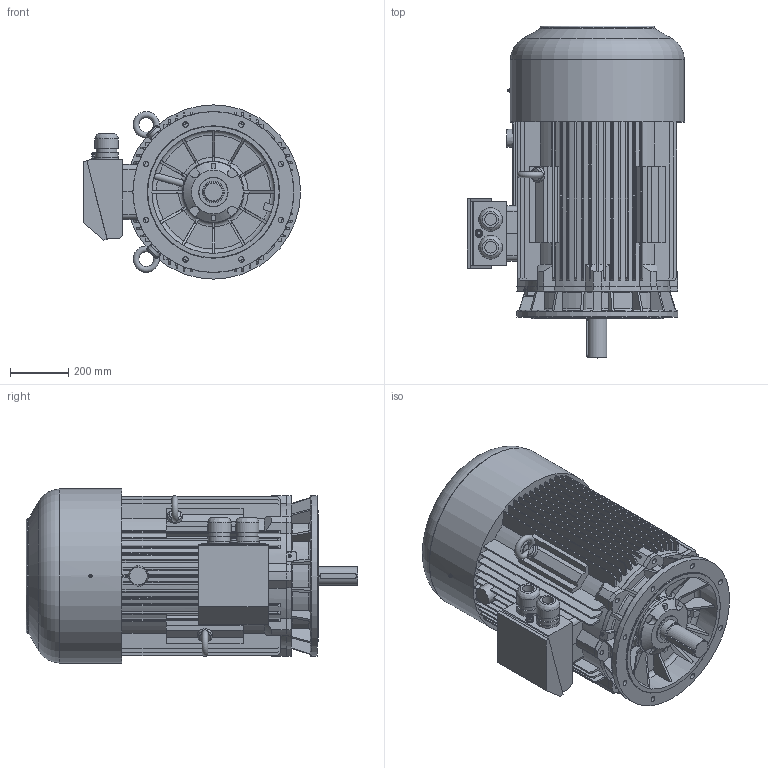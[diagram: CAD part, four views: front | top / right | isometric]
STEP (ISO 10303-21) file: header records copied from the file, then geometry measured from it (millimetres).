
FILE_DESCRIPTION( ( 'Unknown' ), '1' );
FILE_NAME( 'P:/3D_Bry³y silników skatalogowane/SIE/2SIE280/STP_2SIE280/2SIEK280 M_S2.stp', 'Unknown', ( 'Unknown' ), ( 'Unknown' ), 'XStep 1.0', 'Unknown', ' ' );
FILE_SCHEMA( ( 'CONFIG_CONTROL_DESIGN' ) );
Length unit declared in the file: millimetre
Products named in the file (4): 1; 2; 3; 4
Bounding box: 742.3 x 1134.98 x 596 mm (x, y, z)
Volume: 224865513.4 mm3; surface area: 5153369.8 mm2
Topology: 4 solids, 5 shells, 969 faces, 2703 edges, 1789 vertices
Faces by surface type: plane 570, cylinder 226, torus 90, cone 65, bspline 18
Full cylindrical faces by diameter (mm): 1.6 x2, 5 x3, 6 x2, 8.36 x1, 8.4 x1, 8.5 x1, 8.917 x1, 10 x4, 10.106 x2, 11.083 x1, 18 x8, 19 x9, 21 x1, 23 x1, 27 x1, 40 x2, 50 x2, 65 x1, 71.32 x2, 74.5 x1, 78.781 x2, 80.024 x2, 81.268 x2, 98.8 x1, 100 x1, 160 x1, 208 x1, 210 x1, 420 x1, 450 x1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
Entity records: 40643 total; most frequent: CARTESIAN_POINT 16364, ORIENTED_EDGE 5124, DIRECTION 4813, EDGE_CURVE 2562, VERTEX_POINT 1747, AXIS2_PLACEMENT_3D 1710, LINE 1393, VECTOR 1393
